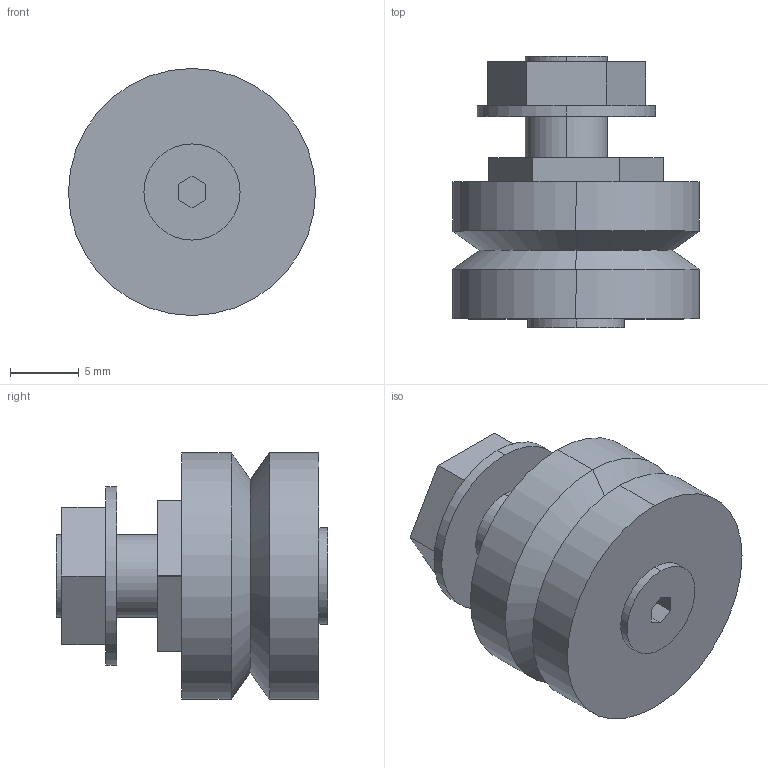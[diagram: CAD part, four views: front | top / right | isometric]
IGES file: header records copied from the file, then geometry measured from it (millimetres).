
Start section: 3D InterOp IGES (v. 2019 1.0.2), Spatial Corp. Copyright (c) 1999-2017.
Global section: file name: SJ 18 ENS.igs; native system: Spatial Corp.; preprocessor: 3D InterOp GENERIC/IGES 3.0; author: Noname; organization: Noname; date: 20220628.165356; units: millimetre
Bounding box: 18 x 19.8 x 18 mm (x, y, z)
Surface area: 1698.8 mm2 (no closed solid volume)
Topology: 0 solids, 0 shells, 50 faces, 228 edges, 228 vertices
Faces by surface type: extrusion 34, revolution 16
